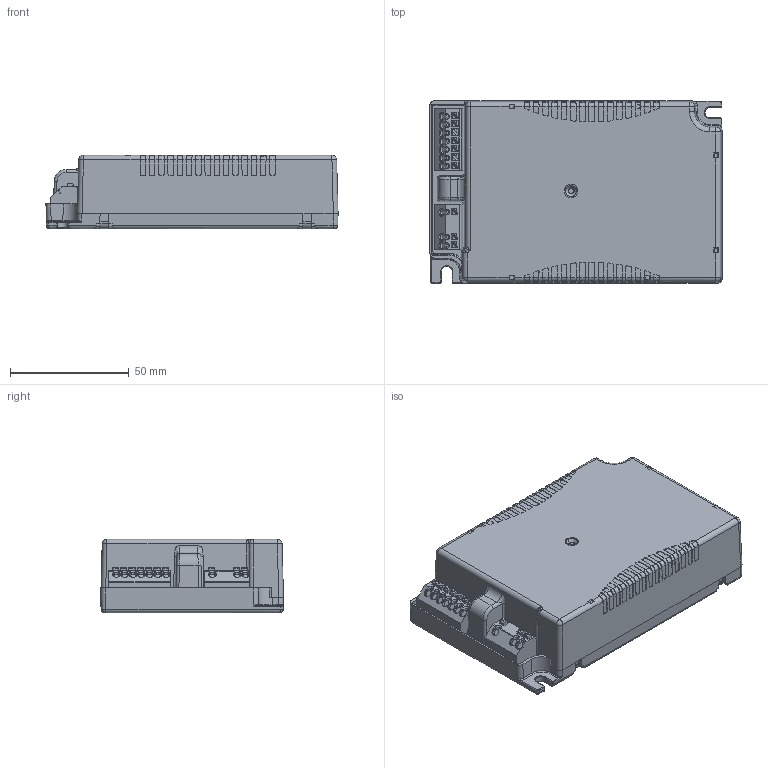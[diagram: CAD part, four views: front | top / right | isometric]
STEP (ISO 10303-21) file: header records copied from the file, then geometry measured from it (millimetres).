
FILE_DESCRIPTION((''),'2;1');
FILE_NAME('15012179Z_DATAMEC_OTD_123X77X31','2021-01-12T16:07:51',('elon.guo'),(''),'CREO PARAMETRIC BY PTC INC, 2019164','CREO PARAMETRIC BY PTC INC, 2019164','');
FILE_SCHEMA(('CONFIG_CONTROL_DESIGN'));
Products named in the file (1): 15012179Z_DATAMEC_OTD_123X77X31
Bounding box: 123.1 x 77.1 x 30.95 mm (x, y, z)
Volume: 56557 mm3; surface area: 79510.3 mm2
Topology: 1 solids, 3 shells, 3141 faces, 8760 edges, 5700 vertices
Faces by surface type: plane 1411, extrusion 783, cylinder 663, bspline 119, cone 61, sphere 57, torus 47
Entity records: 111918 total; most frequent: CARTESIAN_POINT 35689, ORIENTED_EDGE 17404, DIRECTION 12659, EDGE_CURVE 8702, VECTOR 5943, VERTEX_POINT 5700, LINE 5160, AXIS2_PLACEMENT_3D 3358
